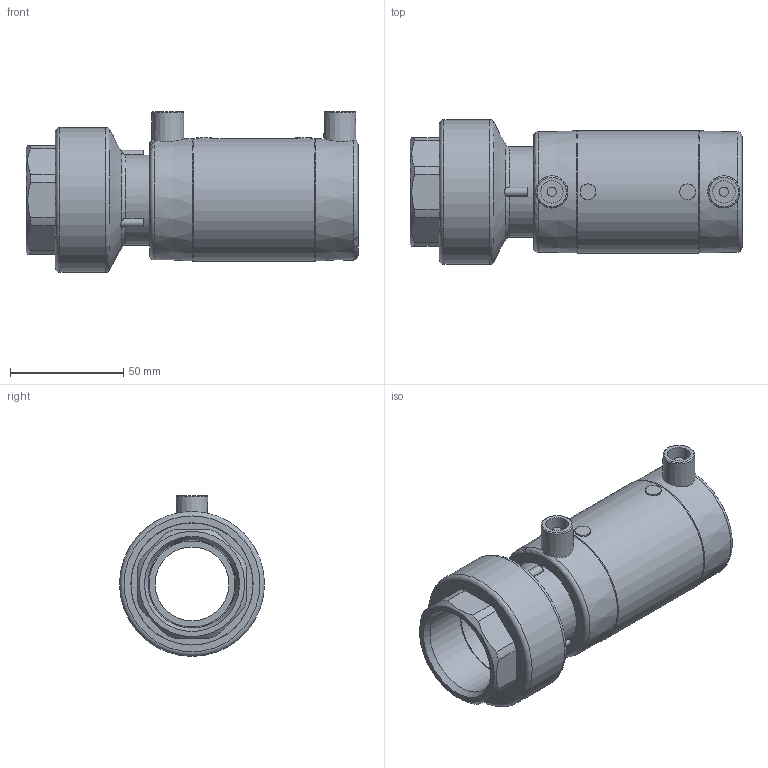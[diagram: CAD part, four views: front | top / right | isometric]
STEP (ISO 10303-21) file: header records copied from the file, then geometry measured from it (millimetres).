
FILE_DESCRIPTION(/* description */ ('Unknown'),/* implementation_level */ '2;1');
FILE_NAME(/* name */ 'MTFP040C',/* time_stamp */ '2021-03-02T09:26:35+01:00',/* author */ ('Unknown'),/* organization */ ('Unknown'),/* preprocessor_version */ 'ST-DEVELOPER v16.7',/* originating_system */ 'Solid Edge',/* authorisation */ 'Unknown');
FILE_SCHEMA (('AUTOMOTIVE_DESIGN {1 0 10303 214 3 1 1}'));
Length unit declared in the file: millimetre
Products named in the file (5): MTFP040C; MP040C; RTOFP040C; Parte PE 040; IOF040C
Assembly tree (4 placements, depth 3):
  MTFP040C
    MP040C
    RTOFP040C
      Parte PE 040
      IOF040C
Bounding box: 146.6 x 64 x 71 mm (x, y, z)
Volume: 187711.1 mm3; surface area: 76404.8 mm2
Topology: 3 solids, 3 shells, 208 faces, 503 edges, 326 vertices
Faces by surface type: plane 116, cylinder 52, torus 17, bspline 15, cone 8
Full cylindrical faces by diameter (mm): 4 x2, 7 x2, 10 x2, 32.6 x1, 38 x3, 38.952 x1, 40 x2, 42 x2, 49 x4, 49.8 x2, 54 x9, 64 x1
Entity records: 6601 total; most frequent: CARTESIAN_POINT 1381, DIRECTION 992, ORIENTED_EDGE 872, EDGE_CURVE 436, AXIS2_PLACEMENT_3D 402, VERTEX_POINT 306, EDGE_LOOP 286, FACE_BOUND 286
